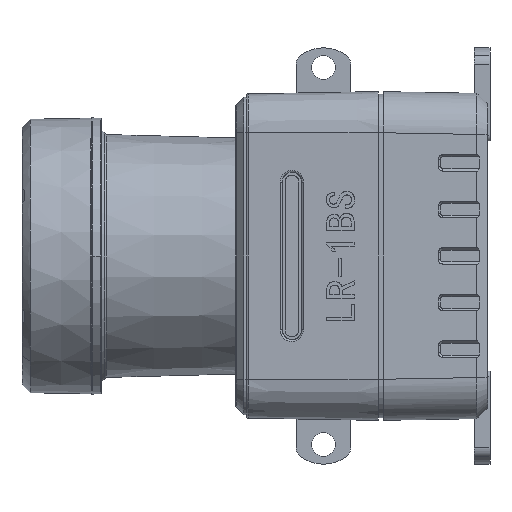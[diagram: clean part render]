
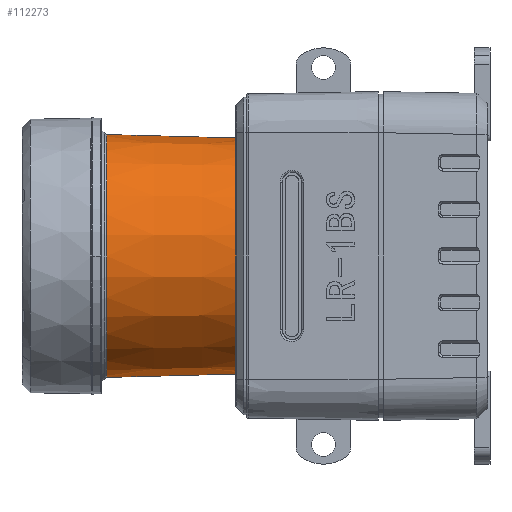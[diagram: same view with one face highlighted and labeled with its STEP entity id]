
A CAD part, left-side view. The second image highlights one B-rep face of the part: STEP entity #112273.
In plain terms, the highlighted conical face has half-angle 1.5 degrees and reference radius 22.207 mm.
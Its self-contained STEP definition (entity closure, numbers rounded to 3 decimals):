
#6923 = LINE ( 'NONE', #62895, #77257 ) ;
#8620 = CARTESIAN_POINT ( 'NONE',  ( -5., 43.487, 0. ) ) ;
#9315 = CARTESIAN_POINT ( 'NONE',  ( -5., 69.513, 0. ) ) ;
#14496 = DIRECTION ( 'NONE',  ( 0., 1., 0. ) ) ;
#19414 = ORIENTED_EDGE ( 'NONE', *, *, #160079, .F. ) ;
#21871 = DIRECTION ( 'NONE',  ( 0., 0., -1. ) ) ;
#22577 = DIRECTION ( 'NONE',  ( 0., 0., -1. ) ) ;
#24316 = FACE_OUTER_BOUND ( 'NONE', #116088, .T. ) ;
#49807 = DIRECTION ( 'NONE',  ( 0., 1., -0.026 ) ) ;
#53805 = CARTESIAN_POINT ( 'NONE',  ( -5., 71.5, 0. ) ) ;
#58713 = VERTEX_POINT ( 'NONE', #149800 ) ;
#59951 = EDGE_CURVE ( 'NONE', #58713, #108340, #136878, .T. ) ;
#62340 = DIRECTION ( 'NONE',  ( 0., 1., 0.026 ) ) ;
#62895 = CARTESIAN_POINT ( 'NONE',  ( -5., 71.5, 22.208 ) ) ;
#67192 = EDGE_CURVE ( 'NONE', #155540, #78813, #103844, .T. ) ;
#67642 = DIRECTION ( 'NONE',  ( 0., 0., 1. ) ) ;
#77257 = VECTOR ( 'NONE', #62340, 1000. ) ;
#78813 = VERTEX_POINT ( 'NONE', #157595 ) ;
#79956 = VECTOR ( 'NONE', #49807, 1000. ) ;
#92439 = AXIS2_PLACEMENT_3D ( 'NONE', #8620, #101144, #21871 ) ;
#100072 = AXIS2_PLACEMENT_3D ( 'NONE', #9315, #101821, #22577 ) ;
#101144 = DIRECTION ( 'NONE',  ( 0., 1., 0. ) ) ;
#101821 = DIRECTION ( 'NONE',  ( 0., -1., 0. ) ) ;
#103751 = ORIENTED_EDGE ( 'NONE', *, *, #59951, .T. ) ;
#103844 = CIRCLE ( 'NONE', #92439, 21.474 ) ;
#108340 = VERTEX_POINT ( 'NONE', #152705 ) ;
#112273 = ADVANCED_FACE ( 'NONE', ( #24316 ), #171200, .T. ) ;
#115172 = LINE ( 'NONE', #155108, #79956 ) ;
#115588 = AXIS2_PLACEMENT_3D ( 'NONE', #53805, #14496, #67642 ) ;
#116088 = EDGE_LOOP ( 'NONE', ( #19414, #136170, #133282, #103751 ) ) ;
#133282 = ORIENTED_EDGE ( 'NONE', *, *, #146323, .T. ) ;
#136170 = ORIENTED_EDGE ( 'NONE', *, *, #67192, .T. ) ;
#136878 = CIRCLE ( 'NONE', #100072, 22.156 ) ;
#146323 = EDGE_CURVE ( 'NONE', #78813, #58713, #6923, .T. ) ;
#149800 = CARTESIAN_POINT ( 'NONE',  ( -5., 69.513, 22.156 ) ) ;
#152705 = CARTESIAN_POINT ( 'NONE',  ( -5., 69.513, -22.156 ) ) ;
#155108 = CARTESIAN_POINT ( 'NONE',  ( -5., 71.5, -22.208 ) ) ;
#155540 = VERTEX_POINT ( 'NONE', #166431 ) ;
#157595 = CARTESIAN_POINT ( 'NONE',  ( -5., 43.487, 21.474 ) ) ;
#160079 = EDGE_CURVE ( 'NONE', #155540, #108340, #115172, .T. ) ;
#166431 = CARTESIAN_POINT ( 'NONE',  ( -5., 43.487, -21.474 ) ) ;
#171200 = CONICAL_SURFACE ( 'NONE', #115588, 22.208, 0.026 ) ;
